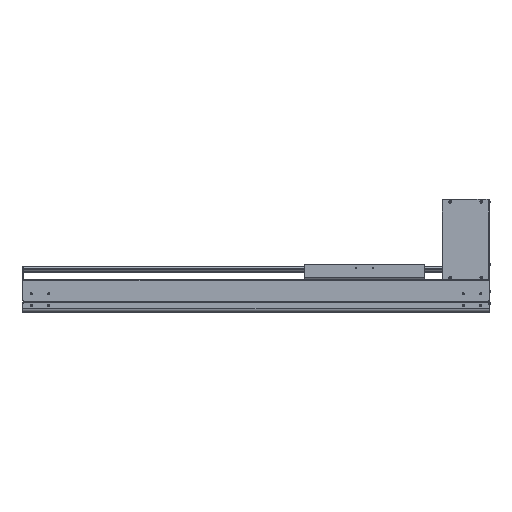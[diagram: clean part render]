
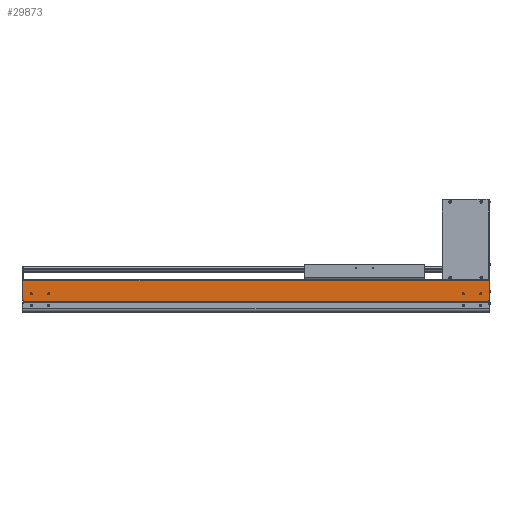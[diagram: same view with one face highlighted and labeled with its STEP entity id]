
A CAD part, top view. The second image highlights one B-rep face of the part: STEP entity #29873.
In plain terms, the highlighted planar face has unit normal (0, 0, 1).
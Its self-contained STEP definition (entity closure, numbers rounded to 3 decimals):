
#599=CARTESIAN_POINT('',(0.,94.,107.));
#8246=DIRECTION('',(-1.,0.,0.));
#8247=VECTOR('',#8246,1348.5);
#8248=CARTESIAN_POINT('',(0.,93.5,107.));
#8249=LINE('',#8248,#8247);
#8276=CARTESIAN_POINT('',(-1323.5,54.,107.));
#8277=DIRECTION('',(0.,0.,-1.));
#8278=DIRECTION('',(1.,0.,0.));
#8279=AXIS2_PLACEMENT_3D('',#8276,#8277,#8278);
#8281=CARTESIAN_POINT('',(-1323.5,54.,107.));
#8282=DIRECTION('',(0.,0.,-1.));
#8283=DIRECTION('',(-1.,0.,0.));
#8284=AXIS2_PLACEMENT_3D('',#8281,#8282,#8283);
#8286=CARTESIAN_POINT('',(-1273.5,54.,107.));
#8287=DIRECTION('',(0.,0.,-1.));
#8288=DIRECTION('',(1.,0.,0.));
#8289=AXIS2_PLACEMENT_3D('',#8286,#8287,#8288);
#8291=CARTESIAN_POINT('',(-1273.5,54.,107.));
#8292=DIRECTION('',(0.,0.,-1.));
#8293=DIRECTION('',(-1.,0.,0.));
#8294=AXIS2_PLACEMENT_3D('',#8291,#8292,#8293);
#8296=CARTESIAN_POINT('',(-23.5,54.,107.));
#8297=DIRECTION('',(0.,0.,-1.));
#8298=DIRECTION('',(1.,0.,0.));
#8299=AXIS2_PLACEMENT_3D('',#8296,#8297,#8298);
#8301=CARTESIAN_POINT('',(-23.5,54.,107.));
#8302=DIRECTION('',(0.,0.,-1.));
#8303=DIRECTION('',(-1.,0.,0.));
#8304=AXIS2_PLACEMENT_3D('',#8301,#8302,#8303);
#8306=CARTESIAN_POINT('',(-73.5,54.,107.));
#8307=DIRECTION('',(0.,0.,-1.));
#8308=DIRECTION('',(1.,0.,0.));
#8309=AXIS2_PLACEMENT_3D('',#8306,#8307,#8308);
#8311=CARTESIAN_POINT('',(-73.5,54.,107.));
#8312=DIRECTION('',(0.,0.,-1.));
#8313=DIRECTION('',(-1.,0.,0.));
#8314=AXIS2_PLACEMENT_3D('',#8311,#8312,#8313);
#8316=DIRECTION('',(0.,-1.,0.));
#8317=VECTOR('',#8316,2.55);
#8318=CARTESIAN_POINT('',(-1346.5,34.65,107.));
#8319=LINE('',#8318,#8317);
#8320=DIRECTION('',(0.,-1.,0.));
#8321=VECTOR('',#8320,58.85);
#8322=CARTESIAN_POINT('',(-1348.5,93.5,107.));
#8323=LINE('',#8322,#8321);
#8324=DIRECTION('',(0.,-1.,0.));
#8325=VECTOR('',#8324,0.5);
#8326=CARTESIAN_POINT('',(0.,94.,107.));
#8327=LINE('',#8326,#8325);
#8328=DIRECTION('',(0.,1.,0.));
#8329=VECTOR('',#8328,58.35);
#8330=CARTESIAN_POINT('',(1.5,35.65,107.));
#8331=LINE('',#8330,#8329);
#8332=DIRECTION('',(0.,1.,0.));
#8333=VECTOR('',#8332,3.55);
#8334=CARTESIAN_POINT('',(0.,32.1,107.));
#8335=LINE('',#8334,#8333);
#8336=DIRECTION('',(1.,0.,0.));
#8337=VECTOR('',#8336,1346.5);
#8338=CARTESIAN_POINT('',(-1346.5,32.1,107.));
#8339=LINE('',#8338,#8337);
#8448=DIRECTION('',(1.,0.,0.));
#8449=VECTOR('',#8448,2.);
#8450=CARTESIAN_POINT('',(-1348.5,34.65,107.));
#8451=LINE('',#8450,#8449);
#8476=DIRECTION('',(-1.,0.,0.));
#8477=VECTOR('',#8476,1.5);
#8478=CARTESIAN_POINT('',(1.5,94.,107.));
#8479=LINE('',#8478,#8477);
#8480=DIRECTION('',(1.,0.,0.));
#8481=VECTOR('',#8480,1.5);
#8482=CARTESIAN_POINT('',(0.,35.65,107.));
#8483=LINE('',#8482,#8481);
#15410=CARTESIAN_POINT('',(1.5,94.,107.));
#15411=VERTEX_POINT('',#15410);
#15412=CARTESIAN_POINT('',(1.5,35.65,107.));
#15413=VERTEX_POINT('',#15412);
#15454=VERTEX_POINT('',#599);
#15486=CARTESIAN_POINT('',(-1348.5,34.65,107.));
#15487=VERTEX_POINT('',#15486);
#15488=CARTESIAN_POINT('',(-1348.5,93.5,107.));
#15489=VERTEX_POINT('',#15488);
#15714=CARTESIAN_POINT('',(-1346.5,32.1,107.));
#15715=VERTEX_POINT('',#15714);
#15765=CARTESIAN_POINT('',(0.,32.1,107.));
#15767=VERTEX_POINT('',#15765);
#16216=CARTESIAN_POINT('',(-1321.,54.,107.));
#16217=CARTESIAN_POINT('',(-1326.,54.,107.));
#16218=VERTEX_POINT('',#16216);
#16219=VERTEX_POINT('',#16217);
#16220=CARTESIAN_POINT('',(-1271.,54.,107.));
#16221=CARTESIAN_POINT('',(-1276.,54.,107.));
#16222=VERTEX_POINT('',#16220);
#16223=VERTEX_POINT('',#16221);
#16224=CARTESIAN_POINT('',(-21.,54.,107.));
#16225=CARTESIAN_POINT('',(-26.,54.,107.));
#16226=VERTEX_POINT('',#16224);
#16227=VERTEX_POINT('',#16225);
#16228=CARTESIAN_POINT('',(-71.,54.,107.));
#16229=CARTESIAN_POINT('',(-76.,54.,107.));
#16230=VERTEX_POINT('',#16228);
#16231=VERTEX_POINT('',#16229);
#18138=CARTESIAN_POINT('',(0.,35.65,107.));
#18139=VERTEX_POINT('',#18138);
#18384=CARTESIAN_POINT('',(0.,93.5,107.));
#18385=VERTEX_POINT('',#18384);
#18727=CARTESIAN_POINT('',(-1346.5,34.65,107.));
#18728=VERTEX_POINT('',#18727);
#29828=CARTESIAN_POINT('',(-673.25,62.8,107.));
#29829=DIRECTION('',(0.,0.,1.));
#29830=DIRECTION('',(0.,-1.,0.));
#29831=AXIS2_PLACEMENT_3D('',#29828,#29829,#29830);
#29832=PLANE('',#29831);
#29833=ORIENTED_EDGE('',*,*,#20917,.F.);
#29835=ORIENTED_EDGE('',*,*,#29834,.F.);
#29836=ORIENTED_EDGE('',*,*,#27446,.F.);
#29837=ORIENTED_EDGE('',*,*,#29817,.F.);
#29838=ORIENTED_EDGE('',*,*,#20030,.F.);
#29840=ORIENTED_EDGE('',*,*,#29839,.F.);
#29841=ORIENTED_EDGE('',*,*,#21916,.F.);
#29843=ORIENTED_EDGE('',*,*,#29842,.F.);
#29844=ORIENTED_EDGE('',*,*,#21678,.F.);
#29846=ORIENTED_EDGE('',*,*,#29845,.F.);
#29847=EDGE_LOOP('',(#29833,#29835,#29836,#29837,#29838,#29840,#29841,#29843,
#29844,#29846));
#29848=FACE_OUTER_BOUND('',#29847,.F.);
#29850=ORIENTED_EDGE('',*,*,#29849,.F.);
#29852=ORIENTED_EDGE('',*,*,#29851,.F.);
#29853=EDGE_LOOP('',(#29850,#29852));
#29854=FACE_BOUND('',#29853,.F.);
#29856=ORIENTED_EDGE('',*,*,#29855,.F.);
#29858=ORIENTED_EDGE('',*,*,#29857,.F.);
#29859=EDGE_LOOP('',(#29856,#29858));
#29860=FACE_BOUND('',#29859,.F.);
#29862=ORIENTED_EDGE('',*,*,#29861,.F.);
#29864=ORIENTED_EDGE('',*,*,#29863,.F.);
#29865=EDGE_LOOP('',(#29862,#29864));
#29866=FACE_BOUND('',#29865,.F.);
#29868=ORIENTED_EDGE('',*,*,#29867,.F.);
#29870=ORIENTED_EDGE('',*,*,#29869,.F.);
#29871=EDGE_LOOP('',(#29868,#29870));
#29872=FACE_BOUND('',#29871,.F.);
#29873=ADVANCED_FACE('',(#29848,#29854,#29860,#29866,#29872),#29832,.T.);
#8280=CIRCLE('',#8279,2.5);
#8285=CIRCLE('',#8284,2.5);
#8290=CIRCLE('',#8289,2.5);
#8295=CIRCLE('',#8294,2.5);
#8300=CIRCLE('',#8299,2.5);
#8305=CIRCLE('',#8304,2.5);
#8310=CIRCLE('',#8309,2.5);
#8315=CIRCLE('',#8314,2.5);
#20030=EDGE_CURVE('',#15454,#18385,#8327,.T.);
#20917=EDGE_CURVE('',#18728,#15715,#8319,.T.);
#21678=EDGE_CURVE('',#15767,#18139,#8335,.T.);
#21916=EDGE_CURVE('',#15413,#15411,#8331,.T.);
#27446=EDGE_CURVE('',#15489,#15487,#8323,.T.);
#29817=EDGE_CURVE('',#18385,#15489,#8249,.T.);
#29834=EDGE_CURVE('',#15487,#18728,#8451,.T.);
#29839=EDGE_CURVE('',#15411,#15454,#8479,.T.);
#29842=EDGE_CURVE('',#18139,#15413,#8483,.T.);
#29845=EDGE_CURVE('',#15715,#15767,#8339,.T.);
#29849=EDGE_CURVE('',#16222,#16223,#8290,.T.);
#29851=EDGE_CURVE('',#16223,#16222,#8295,.T.);
#29855=EDGE_CURVE('',#16226,#16227,#8300,.T.);
#29857=EDGE_CURVE('',#16227,#16226,#8305,.T.);
#29861=EDGE_CURVE('',#16230,#16231,#8310,.T.);
#29863=EDGE_CURVE('',#16231,#16230,#8315,.T.);
#29867=EDGE_CURVE('',#16218,#16219,#8280,.T.);
#29869=EDGE_CURVE('',#16219,#16218,#8285,.T.);
